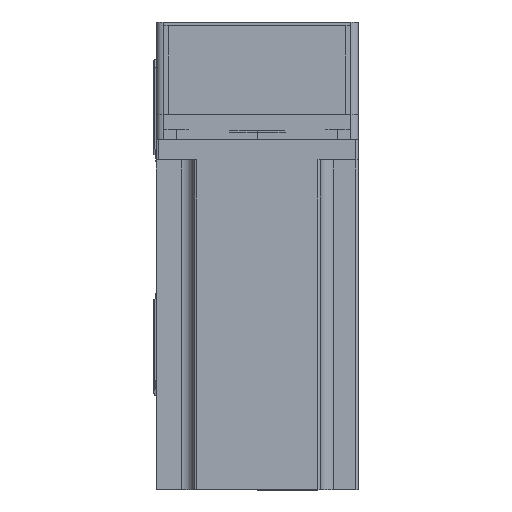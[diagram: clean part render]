
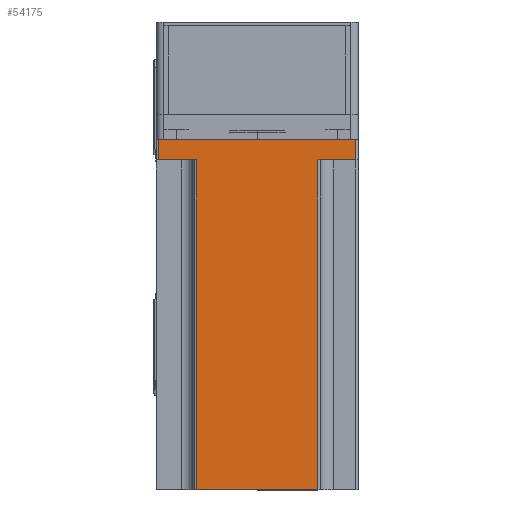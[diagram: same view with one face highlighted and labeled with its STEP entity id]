
A CAD part, top view. The second image highlights one B-rep face of the part: STEP entity #54175.
In plain terms, the highlighted planar face has unit normal (0, 0, 1) as drawn and (0, 1, 0) by its records, which use the part's own axes.
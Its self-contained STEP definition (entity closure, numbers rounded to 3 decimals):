
#1193 = CARTESIAN_POINT ( 'NONE',  ( -39., 40., 138.3 ) ) ;
#1757 = VERTEX_POINT ( 'NONE', #13734 ) ;
#2720 = VECTOR ( 'NONE', #52211, 1000. ) ;
#2867 = PLANE ( 'NONE',  #41878 ) ;
#3043 = CARTESIAN_POINT ( 'NONE',  ( 40., 40., 138.3 ) ) ;
#3475 = CARTESIAN_POINT ( 'NONE',  ( 40., 40., 0. ) ) ;
#4282 = EDGE_CURVE ( 'NONE', #36386, #1757, #47201, .T. ) ;
#4309 = VECTOR ( 'NONE', #6236, 1000. ) ;
#4680 = CARTESIAN_POINT ( 'NONE',  ( 39., 40., 0. ) ) ;
#4857 = EDGE_CURVE ( 'NONE', #34455, #21571, #22911, .T. ) ;
#5631 = LINE ( 'NONE', #10501, #4309 ) ;
#6236 = DIRECTION ( 'NONE',  ( 1., 0., 0. ) ) ;
#7285 = ORIENTED_EDGE ( 'NONE', *, *, #49787, .F. ) ;
#7292 = DIRECTION ( 'NONE',  ( 1., 0., 0. ) ) ;
#8631 = EDGE_CURVE ( 'NONE', #36026, #11635, #5631, .T. ) ;
#9014 = VECTOR ( 'NONE', #33436, 1000. ) ;
#9799 = VECTOR ( 'NONE', #53541, 1000. ) ;
#10031 = DIRECTION ( 'NONE',  ( 0., 0., -1. ) ) ;
#10501 = CARTESIAN_POINT ( 'NONE',  ( -25., 40., 8. ) ) ;
#11454 = VECTOR ( 'NONE', #10031, 1000. ) ;
#11635 = VERTEX_POINT ( 'NONE', #18258 ) ;
#12888 = CARTESIAN_POINT ( 'NONE',  ( 24., 40., 138.3 ) ) ;
#13734 = CARTESIAN_POINT ( 'NONE',  ( 24., 40., 8. ) ) ;
#14842 = ORIENTED_EDGE ( 'NONE', *, *, #4857, .T. ) ;
#15518 = VECTOR ( 'NONE', #24113, 1000. ) ;
#18258 = CARTESIAN_POINT ( 'NONE',  ( -24., 40., 8. ) ) ;
#18452 = EDGE_LOOP ( 'NONE', ( #52520, #47271, #7285, #45315, #29812, #14842, #49355, #19533 ) ) ;
#19314 = EDGE_CURVE ( 'NONE', #21155, #36026, #54296, .T. ) ;
#19533 = ORIENTED_EDGE ( 'NONE', *, *, #19314, .T. ) ;
#20748 = FACE_OUTER_BOUND ( 'NONE', #18452, .T. ) ;
#20878 = EDGE_CURVE ( 'NONE', #21571, #21155, #41942, .T. ) ;
#21155 = VERTEX_POINT ( 'NONE', #27067 ) ;
#21571 = VERTEX_POINT ( 'NONE', #4680 ) ;
#22911 = LINE ( 'NONE', #35801, #11454 ) ;
#22914 = DIRECTION ( 'NONE',  ( 0., 0., -1. ) ) ;
#23544 = CARTESIAN_POINT ( 'NONE',  ( 25., 40., 8. ) ) ;
#24113 = DIRECTION ( 'NONE',  ( -1., 0., 0. ) ) ;
#24393 = VECTOR ( 'NONE', #22914, 1000. ) ;
#26032 = VERTEX_POINT ( 'NONE', #49102 ) ;
#26530 = CARTESIAN_POINT ( 'NONE',  ( -24., 40., 138.3 ) ) ;
#27067 = CARTESIAN_POINT ( 'NONE',  ( -39., 40., 0. ) ) ;
#27231 = CARTESIAN_POINT ( 'NONE',  ( -39., 40., 8. ) ) ;
#27999 = CARTESIAN_POINT ( 'NONE',  ( 39., 40., 8. ) ) ;
#28794 = VECTOR ( 'NONE', #52560, 1000. ) ;
#29812 = ORIENTED_EDGE ( 'NONE', *, *, #33819, .F. ) ;
#31164 = CARTESIAN_POINT ( 'NONE',  ( 24., 40., 138.3 ) ) ;
#32486 = EDGE_CURVE ( 'NONE', #11635, #26032, #47009, .T. ) ;
#32665 = LINE ( 'NONE', #23544, #9799 ) ;
#33036 = DIRECTION ( 'NONE',  ( 0., -1., 0. ) ) ;
#33436 = DIRECTION ( 'NONE',  ( -1., 0., 0. ) ) ;
#33819 = EDGE_CURVE ( 'NONE', #34455, #1757, #32665, .T. ) ;
#34455 = VERTEX_POINT ( 'NONE', #27999 ) ;
#35801 = CARTESIAN_POINT ( 'NONE',  ( 39., 40., 138.3 ) ) ;
#36026 = VERTEX_POINT ( 'NONE', #27231 ) ;
#36386 = VERTEX_POINT ( 'NONE', #12888 ) ;
#41878 = AXIS2_PLACEMENT_3D ( 'NONE', #3043, #33036, #7292 ) ;
#41942 = LINE ( 'NONE', #3475, #9014 ) ;
#45315 = ORIENTED_EDGE ( 'NONE', *, *, #4282, .T. ) ;
#47009 = LINE ( 'NONE', #26530, #2720 ) ;
#47201 = LINE ( 'NONE', #31164, #24393 ) ;
#47271 = ORIENTED_EDGE ( 'NONE', *, *, #32486, .T. ) ;
#49102 = CARTESIAN_POINT ( 'NONE',  ( -24., 40., 138.3 ) ) ;
#49355 = ORIENTED_EDGE ( 'NONE', *, *, #20878, .T. ) ;
#49779 = CARTESIAN_POINT ( 'NONE',  ( 40., 40., 138.3 ) ) ;
#49787 = EDGE_CURVE ( 'NONE', #36386, #26032, #49792, .T. ) ;
#49792 = LINE ( 'NONE', #49779, #15518 ) ;
#52211 = DIRECTION ( 'NONE',  ( 0., 0., 1. ) ) ;
#52520 = ORIENTED_EDGE ( 'NONE', *, *, #8631, .T. ) ;
#52560 = DIRECTION ( 'NONE',  ( 0., 0., 1. ) ) ;
#53541 = DIRECTION ( 'NONE',  ( -1., 0., 0. ) ) ;
#54175 = ADVANCED_FACE ( 'NONE', ( #20748 ), #2867, .F. ) ;
#54296 = LINE ( 'NONE', #1193, #28794 ) ;
